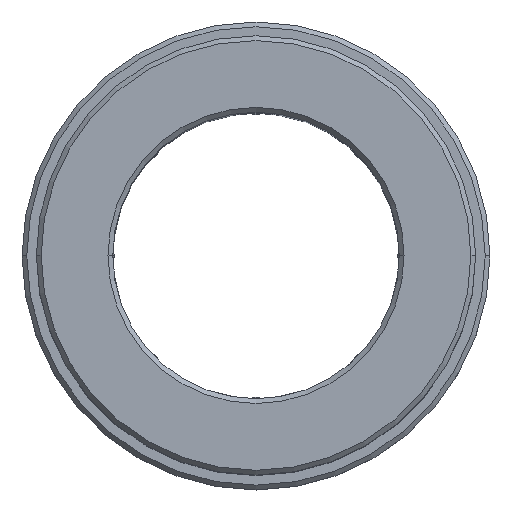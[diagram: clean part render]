
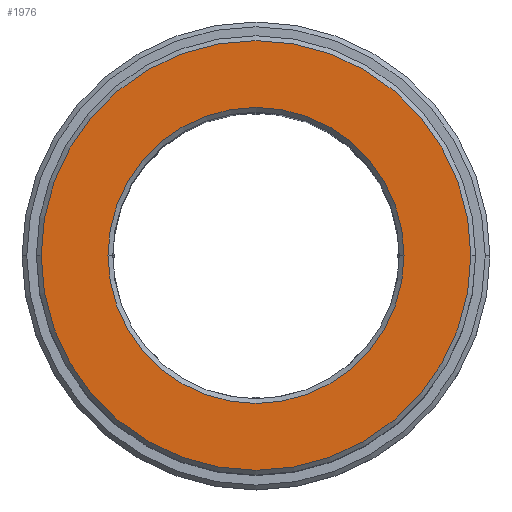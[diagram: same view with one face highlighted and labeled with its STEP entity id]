
A CAD part, top view. The second image highlights one B-rep face of the part: STEP entity #1976.
In plain terms, the highlighted planar face has unit normal (0, 0, 1).
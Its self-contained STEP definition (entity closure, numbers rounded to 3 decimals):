
#969=CARTESIAN_POINT('',(0.,0.,
36.));
#970=DIRECTION('',(0.,0.,-1.));
#971=DIRECTION('',(1.,0.,0.));
#972=AXIS2_PLACEMENT_3D('',#969,#970,#971);
#974=CARTESIAN_POINT('',(0.,0.,
36.));
#975=DIRECTION('',(0.,0.,-1.));
#976=DIRECTION('',(-1.,0.,0.));
#977=AXIS2_PLACEMENT_3D('',#974,#975,#976);
#979=CARTESIAN_POINT('',(0.,0.,
36.));
#980=DIRECTION('',(0.,0.,-1.));
#981=DIRECTION('',(-1.,0.,0.));
#982=AXIS2_PLACEMENT_3D('',#979,#980,#981);
#984=CARTESIAN_POINT('',(0.,0.,
36.));
#985=DIRECTION('',(0.,0.,-1.));
#986=DIRECTION('',(1.,0.,0.));
#987=AXIS2_PLACEMENT_3D('',#984,#985,#986);
#1265=CARTESIAN_POINT('',(22.5,0.,36.));
#1266=CARTESIAN_POINT('',(-22.5,0.,
36.));
#1267=VERTEX_POINT('',#1265);
#1268=VERTEX_POINT('',#1266);
#1269=CARTESIAN_POINT('',(-15.5,0.,36.));
#1270=CARTESIAN_POINT('',(15.5,0.,36.));
#1271=VERTEX_POINT('',#1269);
#1272=VERTEX_POINT('',#1270);
#1960=CARTESIAN_POINT('',(0.,0.,36.));
#1961=DIRECTION('',(0.,0.,1.));
#1962=DIRECTION('',(-1.,0.,0.));
#1963=AXIS2_PLACEMENT_3D('',#1960,#1961,#1962);
#1964=PLANE('',#1963);
#1966=ORIENTED_EDGE('',*,*,#1965,.T.);
#1968=ORIENTED_EDGE('',*,*,#1967,.T.);
#1969=EDGE_LOOP('',(#1966,#1968));
#1970=FACE_OUTER_BOUND('',#1969,.F.);
#1972=ORIENTED_EDGE('',*,*,#1971,.F.);
#1973=ORIENTED_EDGE('',*,*,#1950,.F.);
#1974=EDGE_LOOP('',(#1972,#1973));
#1975=FACE_BOUND('',#1974,.F.);
#1976=ADVANCED_FACE('',(#1970,#1975),#1964,.T.);
#973=CIRCLE('',#972,22.5);
#978=CIRCLE('',#977,22.5);
#983=CIRCLE('',#982,15.5);
#988=CIRCLE('',#987,15.5);
#1950=EDGE_CURVE('',#1272,#1271,#988,.T.);
#1965=EDGE_CURVE('',#1267,#1268,#973,.T.);
#1967=EDGE_CURVE('',#1268,#1267,#978,.T.);
#1971=EDGE_CURVE('',#1271,#1272,#983,.T.);
